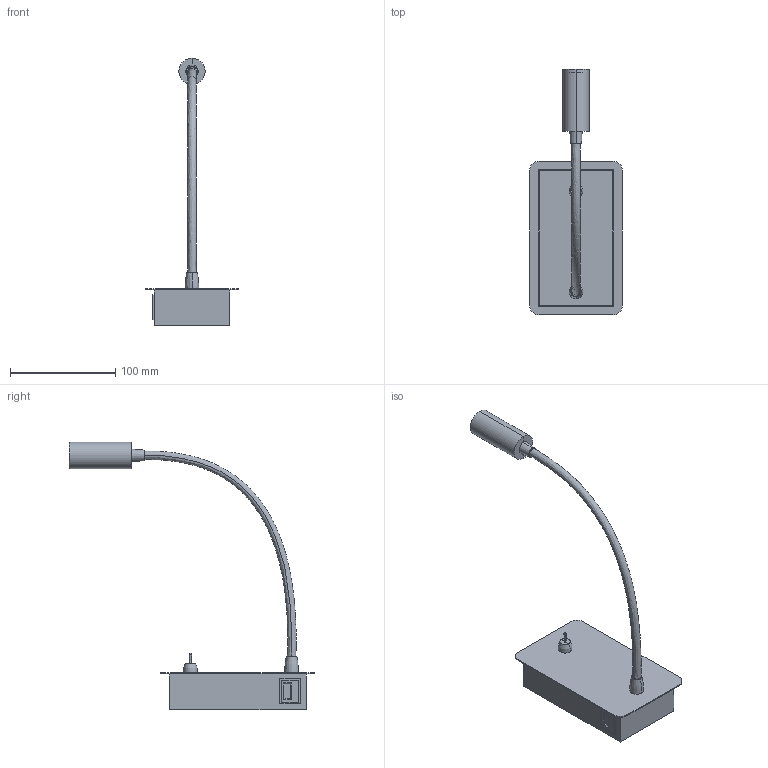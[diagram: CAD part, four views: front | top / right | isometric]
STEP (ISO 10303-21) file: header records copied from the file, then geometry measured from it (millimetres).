
FILE_DESCRIPTION(/* description */ (''),/* implementation_level */ '2;1');
FILE_NAME(/* name */ '41025NA.step',/* time_stamp */ '2025-01-21T09:06:09+01:00',/* author */ ('RenataManzini'),/* organization */ (''),/* preprocessor_version */ 'ST-DEVELOPER v20',/* originating_system */ 'AutoCAD Mechanical',/* authorisation */ '');
FILE_SCHEMA (('AUTOMOTIVE_DESIGN { 1 0 10303 214 3 1 1 }'));
Length unit declared in the file: millimetre
Products named in the file (3): Product; FamilyGeomCombination_456896-View 1; FamilyGeomCombination_463609-View 1
Assembly tree (2 placements, depth 2):
  Product
    FamilyGeomCombination_456896-View 1
    FamilyGeomCombination_463609-View 1
Bounding box: 88 x 233.02 x 253.93 mm (x, y, z)
Volume: 82288.6 mm3; surface area: 76720.4 mm2
Topology: 9 solids, 9 shells, 114 faces, 249 edges, 153 vertices
Faces by surface type: plane 82, cylinder 20, bspline 8, cone 4
Entity records: 3380 total; most frequent: CARTESIAN_POINT 831, DIRECTION 511, ORIENTED_EDGE 494, EDGE_CURVE 247, LINE 179, VECTOR 179, AXIS2_PLACEMENT_3D 166, VERTEX_POINT 153
